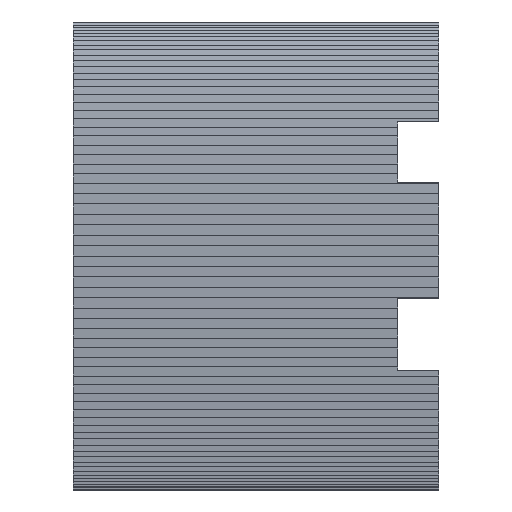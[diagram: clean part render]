
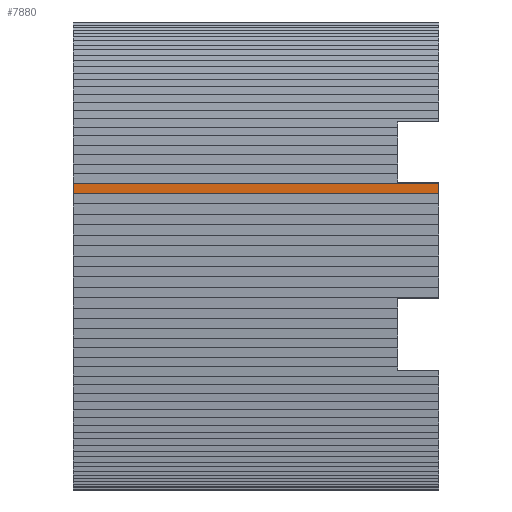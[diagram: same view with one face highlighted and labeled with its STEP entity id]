
A CAD part, front view. The second image highlights one B-rep face of the part: STEP entity #7880.
In plain terms, the highlighted planar face has unit normal (0, -1, -0.023).
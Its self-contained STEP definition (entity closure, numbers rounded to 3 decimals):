
#44 = PLANE('',#45);
#45 = AXIS2_PLACEMENT_3D('',#46,#47,#48);
#46 = CARTESIAN_POINT('',(34.,0.,-74.021));
#47 = DIRECTION('',(-1.,-0.,-0.));
#48 = DIRECTION('',(0.,0.,-1.));
#3188 = VERTEX_POINT('',#3189);
#3189 = CARTESIAN_POINT('',(34.,-8.269,-56.377));
#3203 = PLANE('',#3204);
#3204 = AXIS2_PLACEMENT_3D('',#3205,#3206,#3207);
#3205 = CARTESIAN_POINT('',(34.,-8.176,-59.424));
#3206 = DIRECTION('',(0.,-1.,-0.03));
#3207 = DIRECTION('',(0.,-0.03,1.));
#3215 = EDGE_CURVE('',#3188,#3216,#3218,.T.);
#3216 = VERTEX_POINT('',#3217);
#3217 = CARTESIAN_POINT('',(34.,-8.338,-53.369));
#3218 = SURFACE_CURVE('',#3219,(#3223,#3230),.PCURVE_S1.);
#3219 = LINE('',#3220,#3221);
#3220 = CARTESIAN_POINT('',(34.,-8.269,-56.377));
#3221 = VECTOR('',#3222,1.);
#3222 = DIRECTION('',(0.,-0.023,1.));
#3223 = PCURVE('',#44,#3224);
#3224 = DEFINITIONAL_REPRESENTATION('',(#3225),#3229);
#3225 = LINE('',#3226,#3227);
#3226 = CARTESIAN_POINT('',(-17.644,8.269));
#3227 = VECTOR('',#3228,1.);
#3228 = DIRECTION('',(-1.,0.023));
#3229 = ( GEOMETRIC_REPRESENTATION_CONTEXT(2) 
PARAMETRIC_REPRESENTATION_CONTEXT() REPRESENTATION_CONTEXT('2D SPACE',''
  ) );
#3230 = PCURVE('',#3231,#3236);
#3231 = PLANE('',#3232);
#3232 = AXIS2_PLACEMENT_3D('',#3233,#3234,#3235);
#3233 = CARTESIAN_POINT('',(34.,-8.269,-56.377));
#3234 = DIRECTION('',(0.,-1.,-0.023));
#3235 = DIRECTION('',(0.,-0.023,1.));
#3236 = DEFINITIONAL_REPRESENTATION('',(#3237),#3241);
#3237 = LINE('',#3238,#3239);
#3238 = CARTESIAN_POINT('',(0.,0.));
#3239 = VECTOR('',#3240,1.);
#3240 = DIRECTION('',(1.,0.));
#3241 = ( GEOMETRIC_REPRESENTATION_CONTEXT(2) 
PARAMETRIC_REPRESENTATION_CONTEXT() REPRESENTATION_CONTEXT('2D SPACE',''
  ) );
#3259 = PLANE('',#3260);
#3260 = AXIS2_PLACEMENT_3D('',#3261,#3262,#3263);
#3261 = CARTESIAN_POINT('',(34.,-8.338,-53.369));
#3262 = DIRECTION('',(0.,-1.,-0.015));
#3263 = DIRECTION('',(0.,-0.015,1.));
#7739 = EDGE_CURVE('',#7740,#3216,#7742,.T.);
#7740 = VERTEX_POINT('',#7741);
#7741 = CARTESIAN_POINT('',(143.3,-8.338,-53.369));
#7742 = SURFACE_CURVE('',#7743,(#7747,#7754),.PCURVE_S1.);
#7743 = LINE('',#7744,#7745);
#7744 = CARTESIAN_POINT('',(220.,-8.338,-53.369));
#7745 = VECTOR('',#7746,1.);
#7746 = DIRECTION('',(-1.,0.,0.));
#7747 = PCURVE('',#3259,#7748);
#7748 = DEFINITIONAL_REPRESENTATION('',(#7749),#7753);
#7749 = LINE('',#7750,#7751);
#7750 = CARTESIAN_POINT('',(0.,-186.));
#7751 = VECTOR('',#7752,1.);
#7752 = DIRECTION('',(0.,1.));
#7753 = ( GEOMETRIC_REPRESENTATION_CONTEXT(2) 
PARAMETRIC_REPRESENTATION_CONTEXT() REPRESENTATION_CONTEXT('2D SPACE',''
  ) );
#7754 = PCURVE('',#3231,#7755);
#7755 = DEFINITIONAL_REPRESENTATION('',(#7756),#7760);
#7756 = LINE('',#7757,#7758);
#7757 = CARTESIAN_POINT('',(3.009,-186.));
#7758 = VECTOR('',#7759,1.);
#7759 = DIRECTION('',(0.,1.));
#7760 = ( GEOMETRIC_REPRESENTATION_CONTEXT(2) 
PARAMETRIC_REPRESENTATION_CONTEXT() REPRESENTATION_CONTEXT('2D SPACE',''
  ) );
#7777 = PLANE('',#7778);
#7778 = AXIS2_PLACEMENT_3D('',#7779,#7780,#7781);
#7779 = CARTESIAN_POINT('',(143.3,-25.,-155.));
#7780 = DIRECTION('',(1.,0.,0.));
#7781 = DIRECTION('',(0.,0.,1.));
#7880 = ADVANCED_FACE('',(#7881),#3231,.T.);
#7881 = FACE_BOUND('',#7882,.T.);
#7882 = EDGE_LOOP('',(#7883,#7884,#7907,#7926));
#7883 = ORIENTED_EDGE('',*,*,#3215,.F.);
#7884 = ORIENTED_EDGE('',*,*,#7885,.F.);
#7885 = EDGE_CURVE('',#7886,#3188,#7888,.T.);
#7886 = VERTEX_POINT('',#7887);
#7887 = CARTESIAN_POINT('',(143.3,-8.269,-56.377));
#7888 = SURFACE_CURVE('',#7889,(#7893,#7900),.PCURVE_S1.);
#7889 = LINE('',#7890,#7891);
#7890 = CARTESIAN_POINT('',(220.,-8.269,-56.377));
#7891 = VECTOR('',#7892,1.);
#7892 = DIRECTION('',(-1.,0.,0.));
#7893 = PCURVE('',#3231,#7894);
#7894 = DEFINITIONAL_REPRESENTATION('',(#7895),#7899);
#7895 = LINE('',#7896,#7897);
#7896 = CARTESIAN_POINT('',(0.,-186.));
#7897 = VECTOR('',#7898,1.);
#7898 = DIRECTION('',(0.,1.));
#7899 = ( GEOMETRIC_REPRESENTATION_CONTEXT(2) 
PARAMETRIC_REPRESENTATION_CONTEXT() REPRESENTATION_CONTEXT('2D SPACE',''
  ) );
#7900 = PCURVE('',#3203,#7901);
#7901 = DEFINITIONAL_REPRESENTATION('',(#7902),#7906);
#7902 = LINE('',#7903,#7904);
#7903 = CARTESIAN_POINT('',(3.048,-186.));
#7904 = VECTOR('',#7905,1.);
#7905 = DIRECTION('',(0.,1.));
#7906 = ( GEOMETRIC_REPRESENTATION_CONTEXT(2) 
PARAMETRIC_REPRESENTATION_CONTEXT() REPRESENTATION_CONTEXT('2D SPACE',''
  ) );
#7907 = ORIENTED_EDGE('',*,*,#7908,.T.);
#7908 = EDGE_CURVE('',#7886,#7740,#7909,.T.);
#7909 = SURFACE_CURVE('',#7910,(#7914,#7920),.PCURVE_S1.);
#7910 = LINE('',#7911,#7912);
#7911 = CARTESIAN_POINT('',(143.3,-7.143,-105.471));
#7912 = VECTOR('',#7913,1.);
#7913 = DIRECTION('',(0.,-0.023,1.));
#7914 = PCURVE('',#3231,#7915);
#7915 = DEFINITIONAL_REPRESENTATION('',(#7916),#7919);
#7916 = B_SPLINE_CURVE_WITH_KNOTS('',1,(#7917,#7918),.UNSPECIFIED.,.F.,
  .F.,(2,2),(49.106,52.116),.PIECEWISE_BEZIER_KNOTS.);
#7917 = CARTESIAN_POINT('',(0.,-109.3));
#7918 = CARTESIAN_POINT('',(3.009,-109.3));
#7919 = ( GEOMETRIC_REPRESENTATION_CONTEXT(2) 
PARAMETRIC_REPRESENTATION_CONTEXT() REPRESENTATION_CONTEXT('2D SPACE',''
  ) );
#7920 = PCURVE('',#7777,#7921);
#7921 = DEFINITIONAL_REPRESENTATION('',(#7922),#7925);
#7922 = B_SPLINE_CURVE_WITH_KNOTS('',1,(#7923,#7924),.UNSPECIFIED.,.F.,
  .F.,(2,2),(49.106,52.116),.PIECEWISE_BEZIER_KNOTS.);
#7923 = CARTESIAN_POINT('',(98.623,-16.731));
#7924 = CARTESIAN_POINT('',(101.631,-16.662));
#7925 = ( GEOMETRIC_REPRESENTATION_CONTEXT(2) 
PARAMETRIC_REPRESENTATION_CONTEXT() REPRESENTATION_CONTEXT('2D SPACE',''
  ) );
#7926 = ORIENTED_EDGE('',*,*,#7739,.T.);
